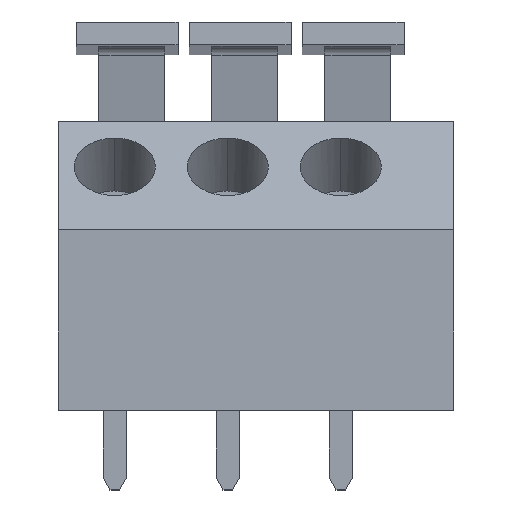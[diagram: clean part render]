
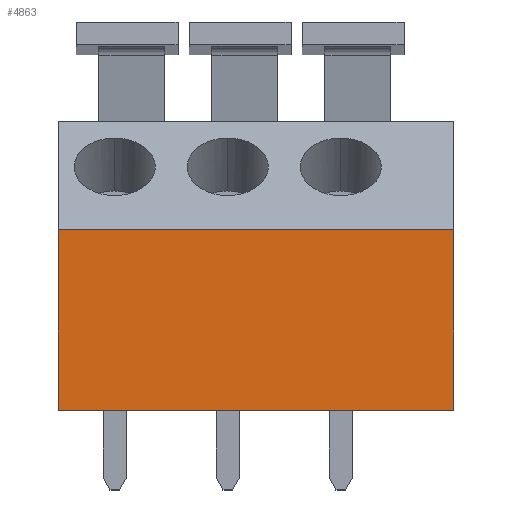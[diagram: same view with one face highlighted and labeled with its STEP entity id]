
A CAD part, top view. The second image highlights one B-rep face of the part: STEP entity #4863.
In plain terms, the highlighted planar face has unit normal (0, 0, 1).
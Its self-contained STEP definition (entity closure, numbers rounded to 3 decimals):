
#4541 = EDGE_CURVE ( 'NONE', #4542, #4543, #14739, .T. ) ;
#4542 = VERTEX_POINT ( 'NONE', #14735 ) ;
#4543 = VERTEX_POINT ( 'NONE', #14734 ) ;
#4841 = ORIENTED_EDGE ( 'NONE', *, *, #4541, .F. ) ;
#4842 = ORIENTED_EDGE ( 'NONE', *, *, #4843, .T. ) ;
#4843 = EDGE_CURVE ( 'NONE', #4542, #4844, #15187, .T. ) ;
#4844 = VERTEX_POINT ( 'NONE', #15183 ) ;
#4845 = ORIENTED_EDGE ( 'NONE', *, *, #4846, .F. ) ;
#4846 = EDGE_CURVE ( 'NONE', #4867, #4844, #15182, .T. ) ;
#4863 = ADVANCED_FACE ( 'NONE', ( #15218 ), #15212, .F. ) ;
#4864 = EDGE_LOOP ( 'NONE', ( #4865, #4841, #4842, #4845 ) ) ;
#4865 = ORIENTED_EDGE ( 'NONE', *, *, #4866, .T. ) ;
#4866 = EDGE_CURVE ( 'NONE', #4867, #4543, #15272, .T. ) ;
#4867 = VERTEX_POINT ( 'NONE', #15268 ) ;
#14734 = CARTESIAN_POINT ( 'NONE',  ( -7.451, 3.214, 0. ) ) ;
#14735 = CARTESIAN_POINT ( 'NONE',  ( -7.451, -4.786, 0. ) ) ;
#14736 = DIRECTION ( 'NONE',  ( 0., 1., 0. ) ) ;
#14737 = VECTOR ( 'NONE', #14736, 1000. ) ;
#14738 = CARTESIAN_POINT ( 'NONE',  ( -7.451, -0.786, 0. ) ) ;
#14739 = LINE ( 'NONE', #14738, #14737 ) ;
#15179 = DIRECTION ( 'NONE',  ( 0., -1., 0. ) ) ;
#15180 = VECTOR ( 'NONE', #15179, 1000. ) ;
#15181 = CARTESIAN_POINT ( 'NONE',  ( 10.049, 1.614, 0. ) ) ;
#15182 = LINE ( 'NONE', #15181, #15180 ) ;
#15183 = CARTESIAN_POINT ( 'NONE',  ( 10.049, -4.786, 0. ) ) ;
#15184 = DIRECTION ( 'NONE',  ( 1., 0., 0. ) ) ;
#15185 = VECTOR ( 'NONE', #15184, 1000. ) ;
#15186 = CARTESIAN_POINT ( 'NONE',  ( 1.299, -4.786, 0. ) ) ;
#15187 = LINE ( 'NONE', #15186, #15185 ) ;
#15207 = DIRECTION ( 'NONE',  ( 0., 1., 0. ) ) ;
#15208 = DIRECTION ( 'NONE',  ( 0., 0., -1. ) ) ;
#15209 = CARTESIAN_POINT ( 'NONE',  ( -7.451, -4.786, 0. ) ) ;
#15210 = AXIS2_PLACEMENT_3D ( 'NONE', #15209, #15208, #15207 ) ;
#15212 = PLANE ( 'NONE',  #15210 ) ;
#15218 = FACE_OUTER_BOUND ( 'NONE', #4864, .T. ) ;
#15268 = CARTESIAN_POINT ( 'NONE',  ( 10.049, 3.214, 0. ) ) ;
#15269 = DIRECTION ( 'NONE',  ( -1., 0., 0. ) ) ;
#15270 = VECTOR ( 'NONE', #15269, 1000. ) ;
#15271 = CARTESIAN_POINT ( 'NONE',  ( 1.299, 3.214, 0. ) ) ;
#15272 = LINE ( 'NONE', #15271, #15270 ) ;
